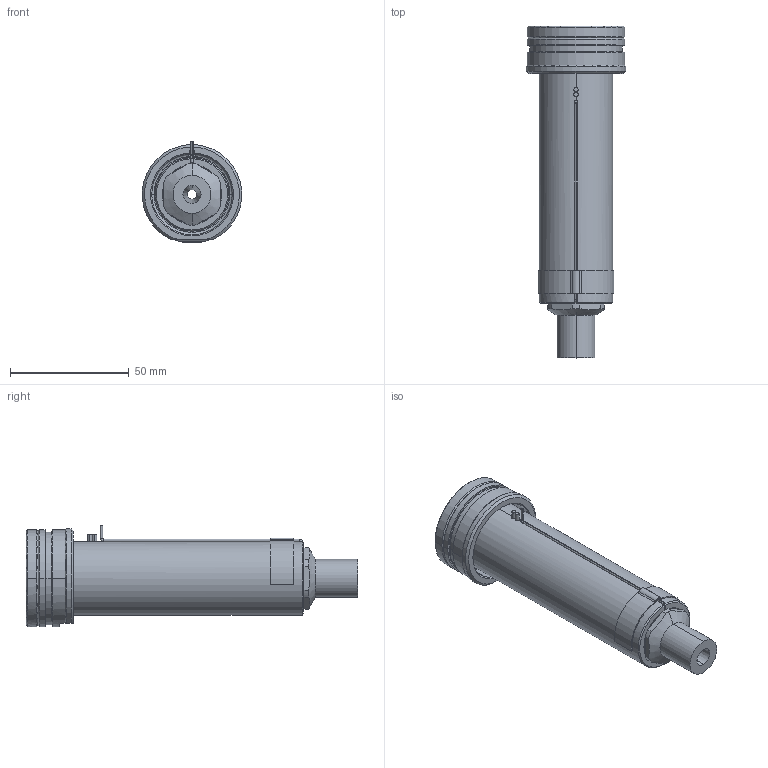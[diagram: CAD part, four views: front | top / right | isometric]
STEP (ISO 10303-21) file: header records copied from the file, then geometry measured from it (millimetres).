
FILE_DESCRIPTION((''),'2;1');
FILE_NAME('EO12_VG-ST_ESG_110_SW','2024-02-19T12:53:01',('sundharh'),(''),'CREO PARAMETRIC BY PTC INC, 2023154','CREO PARAMETRIC BY PTC INC, 2023154','');
FILE_SCHEMA(('CONFIG_CONTROL_DESIGN'));
Length unit declared in the file: millimetre
Products named in the file (1): EO12_VG-ST_ESG_110_SW
Bounding box: 41.85 x 140 x 43 mm (x, y, z)
Volume: 89320.9 mm3; surface area: 24951.6 mm2
Topology: 2 solids, 3 shells, 182 faces, 463 edges, 284 vertices
Faces by surface type: cylinder 65, plane 46, cone 37, torus 27, bspline 5, sphere 2
Entity records: 6271 total; most frequent: CARTESIAN_POINT 1764, DIRECTION 994, ORIENTED_EDGE 922, EDGE_CURVE 461, AXIS2_PLACEMENT_3D 415, VERTEX_POINT 284, CIRCLE 238, EDGE_LOOP 197
